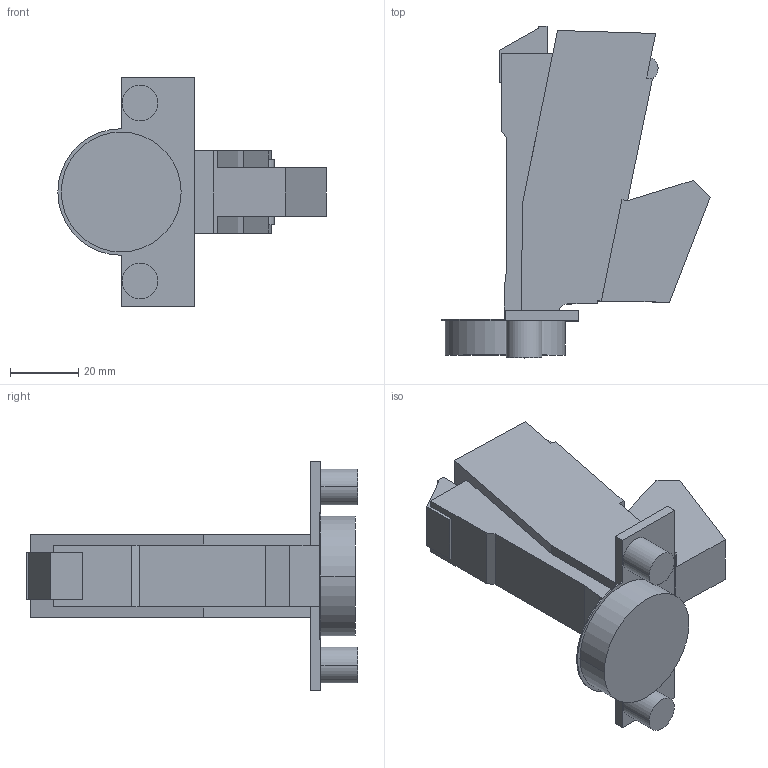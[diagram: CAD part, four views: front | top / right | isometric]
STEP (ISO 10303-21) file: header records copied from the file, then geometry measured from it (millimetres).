
FILE_DESCRIPTION (( 'STEP AP214' ), '1' );
FILE_NAME ('Scharnier TS Click-on 160° H_BB, K03_Dübel - Neu -.step', '2019-09-17T09:22:00', ( '' ), ( '' ), 'SwSTEP 2.0', 'SolidWorks 2019', '' );
FILE_SCHEMA (( 'AUTOMOTIVE_DESIGN' ));
Length unit declared in the file: millimetre
Products named in the file (1): Scharnier TS Click-on 160° H_BB, K03_Dübel - Neu -
Bounding box: 78.34 x 96.89 x 67 mm (x, y, z)
Volume: 93568.4 mm3; surface area: 19580.1 mm2
Topology: 1 solids, 1 shells, 66 faces, 173 edges, 114 vertices
Faces by surface type: plane 53, cylinder 13
Entity records: 2045 total; most frequent: CARTESIAN_POINT 354, ORIENTED_EDGE 346, DIRECTION 333, EDGE_CURVE 173, LINE 147, VECTOR 147, VERTEX_POINT 114, AXIS2_PLACEMENT_3D 93
